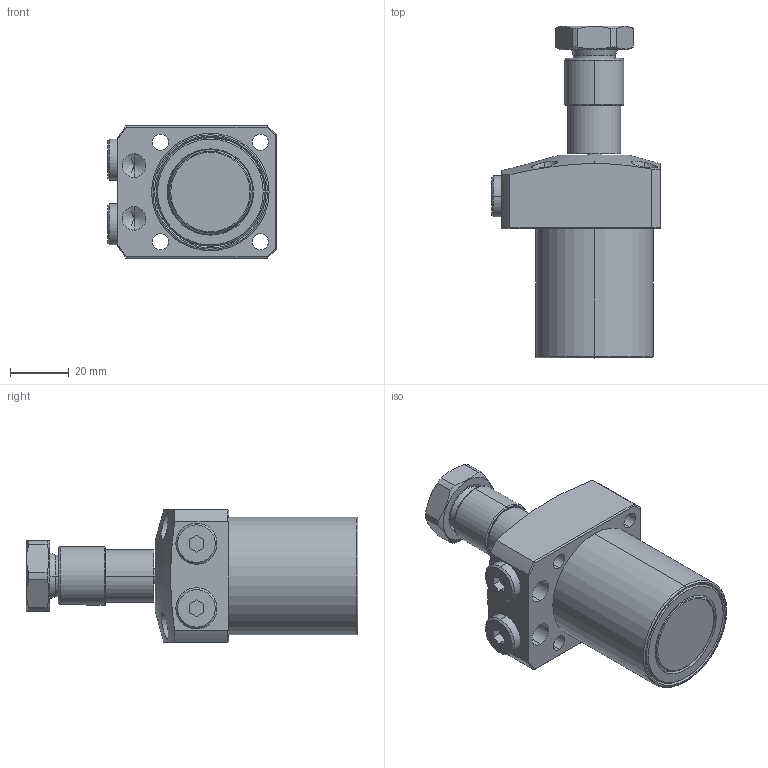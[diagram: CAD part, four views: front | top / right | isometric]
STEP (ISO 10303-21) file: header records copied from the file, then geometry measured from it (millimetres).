
FILE_DESCRIPTION (( 'STEP AP203' ), '1' );
FILE_NAME ('20300-CL.step', '2019-06-24T02:52:11', ( '微软用户' ), ( '微软中国' ), 'SwSTEP 2.0', 'SolidWorks 2014', '' );
FILE_SCHEMA (( 'CONFIG_CONTROL_DESIGN' ));
Length unit declared in the file: millimetre
Products named in the file (7): 3^20300-CL; 4^20300-CL; 5^20300-CL; 6^20300-CL; 20300-CL; 1^20300-CL; 2^20300-CL
Assembly tree (7 placements, depth 2):
  20300-CL
    1^20300-CL
    2^20300-CL
    3^20300-CL
    4^20300-CL
    5^20300-CL
    6^20300-CL  x2
Bounding box: 57.5 x 113 x 45 mm (x, y, z)
Volume: 120646.2 mm3; surface area: 26748.7 mm2
Topology: 7 solids, 9 shells, 209 faces, 490 edges, 307 vertices
Faces by surface type: plane 78, cylinder 70, cone 41, torus 18, sphere 2
Entity records: 6979 total; most frequent: CARTESIAN_POINT 1725, DIRECTION 974, ORIENTED_EDGE 912, EDGE_CURVE 456, AXIS2_PLACEMENT_3D 396, VERTEX_POINT 289, EDGE_LOOP 219, ADVANCED_FACE 196
